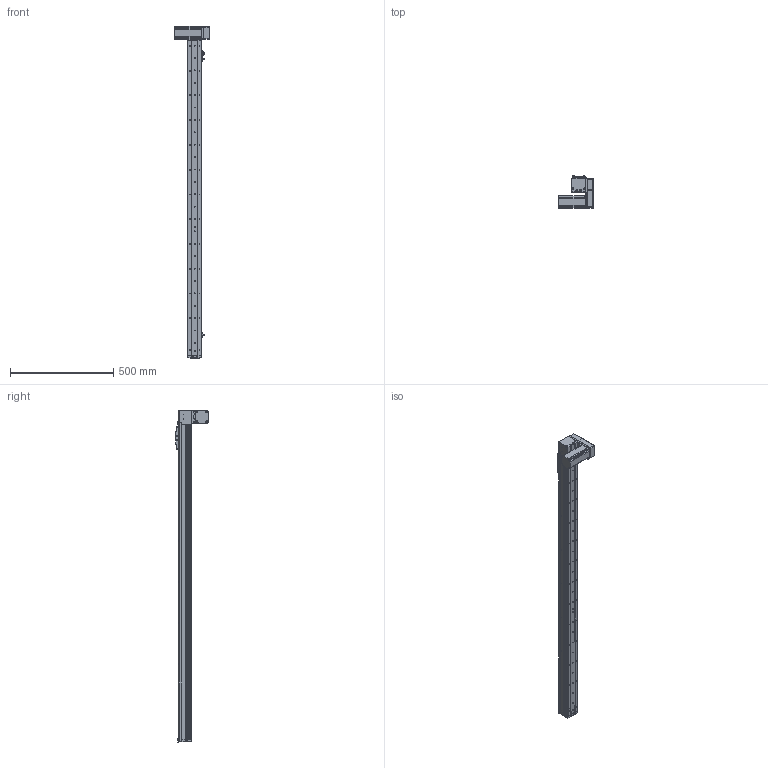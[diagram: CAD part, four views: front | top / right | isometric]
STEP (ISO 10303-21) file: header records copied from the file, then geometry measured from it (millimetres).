
FILE_DESCRIPTION (( 'STEP AP214' ), '1' );
FILE_NAME ('KSD68BS-S1350-MLD-CR.STEP', '2019-11-07T05:51:15', ( '微软用户' ), ( '微软中国' ), 'SwSTEP 2.0', 'SolidWorks 2014', '' );
FILE_SCHEMA (( 'AUTOMOTIVE_DESIGN' ));
Length unit declared in the file: millimetre
Products named in the file (14): KSD68BS-S1350-MLD-CR; 68遵裔啣揤啣1; KSD68BS 1350行程盖板全封闭; 68宽单导轨全封闭丝杆传动安装板1防护罩; KSD68BS 1350行程侧板全封闭; 68宽单导轨全封闭同步带端板; 68单导轨全封闭同步带电机座左; 68单导轨全封闭同步带安装板; 悵誘欶奻狟殏; 68宽马达安装板连板上折同步带; 感应片68宽全封闭; U倰嫖萇EEㄜSX672; 台达ECMA－C20604AS伺服电机（400W); KSD68BS 1350行程底板全封闭
Assembly tree (17 placements, depth 2):
  KSD68BS-S1350-MLD-CR
    KSD68BS 1350行程底板全封闭
    台达ECMA－C20604AS伺服电机（400W)
    U倰嫖萇EEㄜSX672  x3
    感应片68宽全封闭
    68宽马达安装板连板上折同步带
    悵誘欶奻狟殏
    68单导轨全封闭同步带安装板
    68单导轨全封闭同步带电机座左
    68宽单导轨全封闭同步带端板
    KSD68BS 1350行程侧板全封闭  x2
    68宽单导轨全封闭丝杆传动安装板1防护罩
    68遵裔啣揤啣1  x2
    KSD68BS 1350行程盖板全封闭
Bounding box: 167.2 x 155.5 x 1608.1 mm (x, y, z)
Volume: 3007739.1 mm3; surface area: 1194640.3 mm2
Topology: 18 solids, 18 shells, 1573 faces, 4507 edges, 2876 vertices
Faces by surface type: cylinder 764, plane 629, cone 180
Entity records: 50791 total; most frequent: CARTESIAN_POINT 8819, DIRECTION 7570, ORIENTED_EDGE 7242, EDGE_CURVE 3621, AXIS2_PLACEMENT_3D 2751, VERTEX_POINT 2374, VECTOR 2068, LINE 2068
